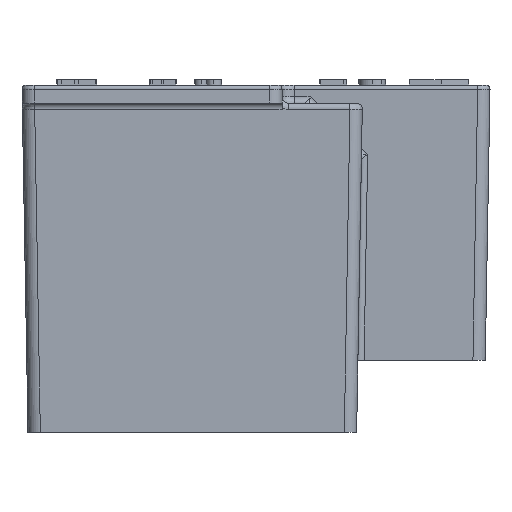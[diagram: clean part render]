
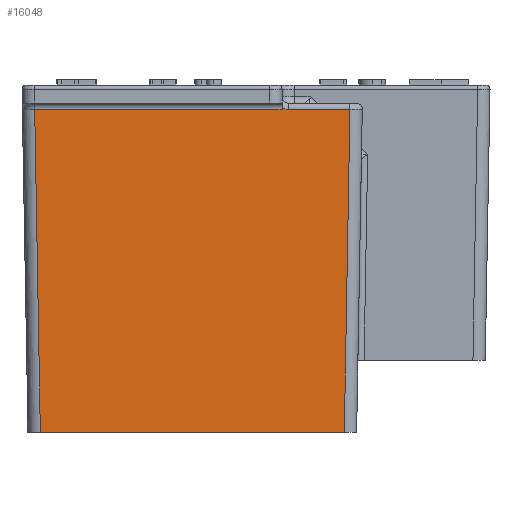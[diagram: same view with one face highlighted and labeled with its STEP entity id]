
A CAD part, front view. The second image highlights one B-rep face of the part: STEP entity #16048.
In plain terms, the highlighted planar face has unit normal (0, -1, -0.018).
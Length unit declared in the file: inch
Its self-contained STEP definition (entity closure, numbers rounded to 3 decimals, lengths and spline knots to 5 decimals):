
#2280=CARTESIAN_POINT('',(0.938,-2.52907,1.41952));
#2281=VERTEX_POINT('',#2280);
#2289=CARTESIAN_POINT('',(0.938,-2.52919,1.42651));
#2290=VERTEX_POINT('',#2289);
#2291=CARTESIAN_POINT('',(0.938,-2.51498,0.61265));
#2292=DIRECTION('',(0.,-0.017,1.));
#2293=VECTOR('',#2292,1.);
#2294=LINE('',#2291,#2293);
#2295=EDGE_CURVE('',#2281,#2290,#2294,.T.);
#11913=CARTESIAN_POINT('',(0.968,-2.52905,1.41848));
#11914=VERTEX_POINT('',#11913);
#11932=CARTESIAN_POINT('',(0.968,-2.53009,1.47848));
#11933=DIRECTION('',(0.,-1.,-0.017));
#11934=DIRECTION('',(0.,0.017,-1.));
#11935=AXIS2_PLACEMENT_3D('',#11932,#11933,#11934);
#11936=ELLIPSE('',#11935,0.06001,0.06);
#11937=EDGE_CURVE('',#2290,#11914,#11936,.T.);
#12039=CARTESIAN_POINT('',(1.26825,-2.52905,1.41848));
#12040=VERTEX_POINT('',#12039);
#12057=CARTESIAN_POINT('',(-0.156,-2.52905,1.41848));
#12058=DIRECTION('',(1.,0.,0.));
#12059=VECTOR('',#12058,1.);
#12060=LINE('',#12057,#12059);
#12061=EDGE_CURVE('',#11914,#12040,#12060,.T.);
#15514=CARTESIAN_POINT('',(-0.2643,-2.52907,1.41952));
#15515=VERTEX_POINT('',#15514);
#15523=CARTESIAN_POINT('',(-0.156,-2.52907,1.41952));
#15524=DIRECTION('',(1.,0.,0.));
#15525=VECTOR('',#15524,1.);
#15526=LINE('',#15523,#15525);
#15527=EDGE_CURVE('',#15515,#2281,#15526,.T.);
#15999=CARTESIAN_POINT('',(-0.2369,-2.50166,-0.1505));
#16000=VERTEX_POINT('',#15999);
#16008=CARTESIAN_POINT('',(-0.25024,-2.515,0.61379));
#16009=DIRECTION('',(-0.017,-0.017,1.));
#16010=VECTOR('',#16009,1.);
#16011=LINE('',#16008,#16010);
#16012=EDGE_CURVE('',#16000,#15515,#16011,.T.);
#16022=ORIENTED_EDGE('',*,*,#11937,.F.);
#16023=ORIENTED_EDGE('',*,*,#2295,.F.);
#16024=ORIENTED_EDGE('',*,*,#15527,.F.);
#16025=ORIENTED_EDGE('',*,*,#16012,.F.);
#16026=CARTESIAN_POINT('',(1.24087,-2.50166,-0.1505));
#16027=VERTEX_POINT('',#16026);
#16028=CARTESIAN_POINT('',(-0.156,-2.50166,-0.1505));
#16029=DIRECTION('',(1.,0.,0.));
#16030=VECTOR('',#16029,1.);
#16031=LINE('',#16028,#16030);
#16032=EDGE_CURVE('',#16000,#16027,#16031,.T.);
#16033=ORIENTED_EDGE('',*,*,#16032,.T.);
#16034=CARTESIAN_POINT('',(1.24011,-2.5009,-0.19381));
#16035=DIRECTION('',(-0.017,0.017,-1.));
#16036=VECTOR('',#16035,1.);
#16037=LINE('',#16034,#16036);
#16038=EDGE_CURVE('',#12040,#16027,#16037,.T.);
#16039=ORIENTED_EDGE('',*,*,#16038,.F.);
#16040=ORIENTED_EDGE('',*,*,#12061,.F.);
#16041=EDGE_LOOP('',(#16022,#16023,#16024,#16025,#16033,#16039,#16040));
#16042=FACE_OUTER_BOUND('',#16041,.T.);
#16043=CARTESIAN_POINT('',(-0.312,-2.50166,-0.15038));
#16044=DIRECTION('',(0.,1.,0.017));
#16045=DIRECTION('',(0.,-0.017,1.));
#16046=AXIS2_PLACEMENT_3D('',#16043,#16044,#16045);
#16047=PLANE('',#16046);
#16048=ADVANCED_FACE('',(#16042),#16047,.F.);
